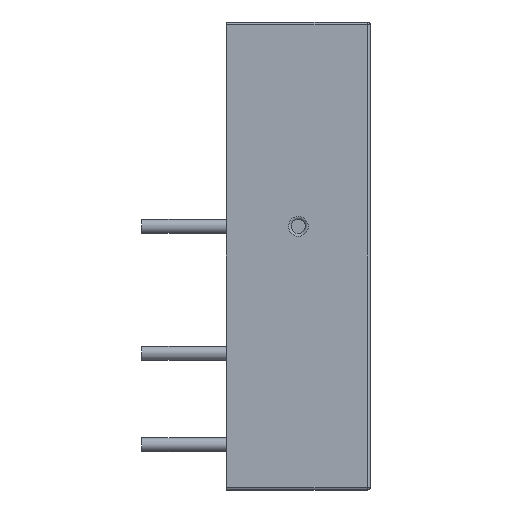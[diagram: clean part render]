
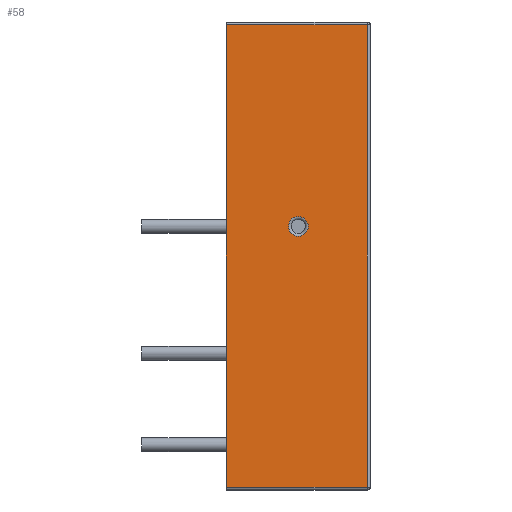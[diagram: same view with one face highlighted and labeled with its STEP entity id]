
A CAD part, left-side view. The second image highlights one B-rep face of the part: STEP entity #58.
In plain terms, the highlighted planar face has unit normal (-1, 0, 0).
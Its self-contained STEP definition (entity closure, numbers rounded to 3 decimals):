
#58=ADVANCED_FACE('',(#2191,#2193),#2195,.T.);
#2191=FACE_BOUND('',#2192,.T.);
#2192=EDGE_LOOP('',(#3896,#3897,#3898,#3899));
#2193=FACE_BOUND('',#2194,.T.);
#2194=EDGE_LOOP('',(#3900));
#2195=PLANE('',#2196);
#2196=AXIS2_PLACEMENT_3D('',#2197,#2198,#2199);
#2197=CARTESIAN_POINT('',(-23.85,0.,-16.6));
#2198=DIRECTION('',(-1.,0.,0.));
#2199=DIRECTION('',(0.,0.,1.));
#3896=ORIENTED_EDGE('',*,*,#5170,.T.);
#3897=ORIENTED_EDGE('',*,*,#5171,.T.);
#3898=ORIENTED_EDGE('',*,*,#5172,.F.);
#3899=ORIENTED_EDGE('',*,*,#5173,.F.);
#3900=ORIENTED_EDGE('',*,*,#5174,.T.);
#5170=EDGE_CURVE('',#5807,#5808,#5809,.T.);
#5171=EDGE_CURVE('',#5808,#5810,#5811,.T.);
#5172=EDGE_CURVE('',#5812,#5810,#5813,.T.);
#5173=EDGE_CURVE('',#5807,#5812,#5814,.T.);
#5174=EDGE_CURVE('',#5815,#5815,#5816,.F.);
#5807=VERTEX_POINT('',#6869);
#5808=VERTEX_POINT('',#6870);
#5809=LINE('',#6871,#6872);
#5810=VERTEX_POINT('',#6874);
#5811=LINE('',#6875,#6876);
#5812=VERTEX_POINT('',#6878);
#5813=LINE('',#6879,#6880);
#5814=LINE('',#6882,#6883);
#5815=VERTEX_POINT('',#6885);
#5816=CIRCLE('',#6886,0.7);
#6869=CARTESIAN_POINT('',(-23.85,0.2,-16.4));
#6870=CARTESIAN_POINT('',(-23.85,0.2,16.4));
#6871=CARTESIAN_POINT('',(-23.85,0.2,-16.4));
#6872=VECTOR('',#6873,1.);
#6873=DIRECTION('',(0.,0.,1.));
#6874=CARTESIAN_POINT('',(-23.85,10.2,16.4));
#6875=CARTESIAN_POINT('',(-23.85,0.2,16.4));
#6876=VECTOR('',#6877,1.);
#6877=DIRECTION('',(0.,1.,0.));
#6878=CARTESIAN_POINT('',(-23.85,10.2,-16.4));
#6879=CARTESIAN_POINT('',(-23.85,10.2,-16.4));
#6880=VECTOR('',#6881,1.);
#6881=DIRECTION('',(0.,0.,1.));
#6882=CARTESIAN_POINT('',(-23.85,0.2,-16.4));
#6883=VECTOR('',#6884,1.);
#6884=DIRECTION('',(0.,1.,0.));
#6885=CARTESIAN_POINT('',(-23.85,5.1,1.4));
#6886=AXIS2_PLACEMENT_3D('',#6887,#6888,#6889);
#6887=CARTESIAN_POINT('',(-23.85,5.1,2.1));
#6888=DIRECTION('',(-1.,0.,0.));
#6889=DIRECTION('',(0.,0.,-1.));
